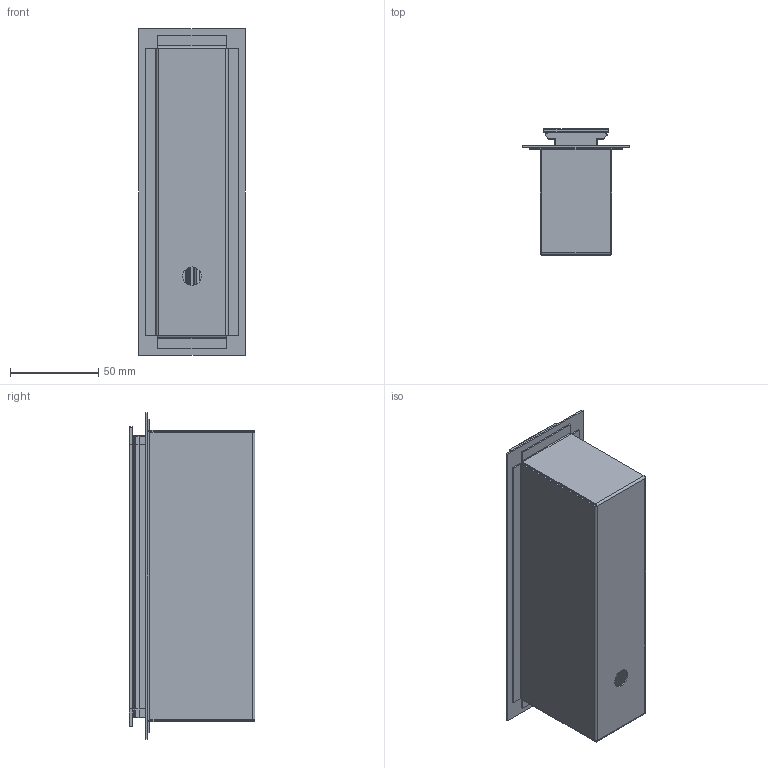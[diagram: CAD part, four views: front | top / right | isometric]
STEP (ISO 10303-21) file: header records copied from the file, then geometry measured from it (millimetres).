
FILE_DESCRIPTION (( 'STEP AP214' ), '1' );
FILE_NAME ('Dot Tilt 5.STEP', '2017-10-20T10:45:47', ( 'Ofitecnic3' ), ( 'Microsoft' ), 'SwSTEP 2.0', 'SolidWorks 2016', '' );
FILE_SCHEMA (( 'AUTOMOTIVE_DESIGN' ));
Length unit declared in the file: millimetre
Products named in the file (7): Disipador BIM (DOT)_150 M3; Dot Tilt 5; Caja Interior BIM(DOT-TILT)_Caja 5X; M3  BIM-Avellanedo Torx_8; Tapa Lateral  BIM(DOT-DOT.TILT)_Tapa  Conj. Basculante; Led BIM (DOT)_5; Perfil Tapa  BIM(SYSTEM CLICK)_LX5
Assembly tree (10 placements, depth 2):
  Dot Tilt 5
    Disipador BIM (DOT)_150 M3
    Perfil Tapa  BIM(SYSTEM CLICK)_LX5
    Led BIM (DOT)_5
    Tapa Lateral  BIM(DOT-DOT.TILT)_Tapa  Conj. Basculante  x2
    M3  BIM-Avellanedo Torx_8  x4
    Caja Interior BIM(DOT-TILT)_Caja 5X
Bounding box: 60.4 x 71.35 x 185.2 mm (x, y, z)
Volume: 127583.1 mm3; surface area: 120085.5 mm2
Topology: 14 solids, 14 shells, 571 faces, 1389 edges, 816 vertices
Faces by surface type: cylinder 245, plane 192, torus 56, sphere 44, cone 30, bspline 4
Entity records: 10568 total; most frequent: DIRECTION 1890, CARTESIAN_POINT 1814, ORIENTED_EDGE 1686, EDGE_CURVE 843, AXIS2_PLACEMENT_3D 698, VERTEX_POINT 514, VECTOR 494, LINE 494
